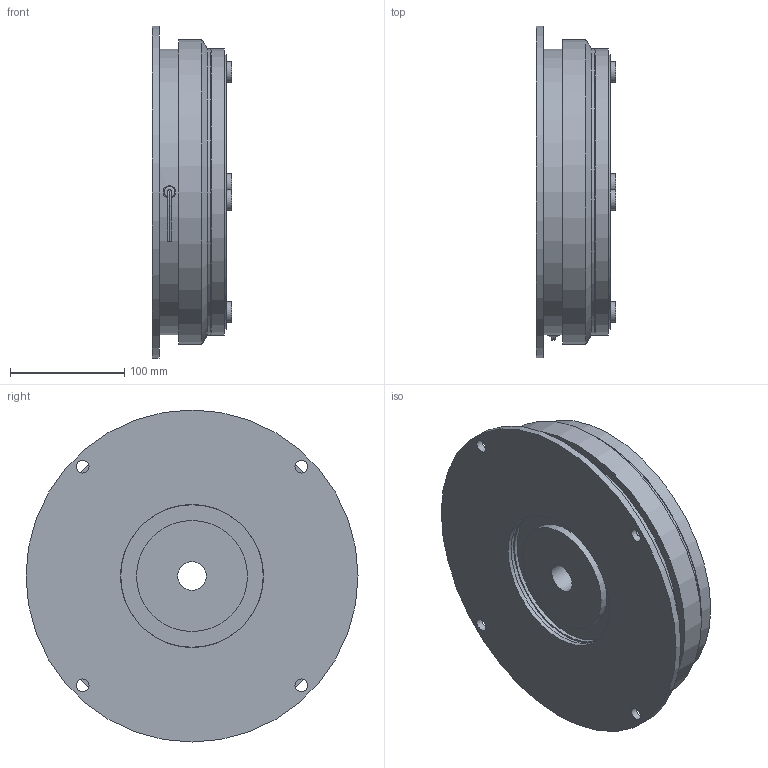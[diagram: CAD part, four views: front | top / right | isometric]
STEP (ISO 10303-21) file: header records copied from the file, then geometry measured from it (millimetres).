
FILE_DESCRIPTION(/* description */ (''),/* implementation_level */ '2;1');
FILE_NAME(/* name */ 'X:\INVENTOR\DISEGNI\08_Freni_Friz_Elettmag_Monodisco\08_20 ESAL\08_20_250_01 ESAL250\08_20_250_01 ESAL250@STEP.stp',/* time_stamp */ '2017-09-20T16:24:44+02:00',/* author */ ('stefano'),/* organization */ (''),/* preprocessor_version */ 'ST-DEVELOPER v16.1',/* originating_system */ 'Autodesk Inventor 2016',/* authorisation */ '');
FILE_SCHEMA (('CONFIG_CONTROL_DESIGN'));
Length unit declared in the file: millimetre
Products named in the file (1): 08_20_250_01 ESAL250_Substitute_1
Bounding box: 69.4 x 290 x 290 mm (x, y, z)
Volume: 2356306.7 mm3; surface area: 442974.7 mm2
Topology: 4 solids, 4 shells, 186 faces, 390 edges, 242 vertices
Faces by surface type: cylinder 74, cone 57, plane 48, torus 4, bspline 3
Full cylindrical faces by diameter (mm): 4 x1, 6 x4, 9 x1, 11 x5, 12.2 x4, 18 x4, 25 x1, 28 x4, 97 x1, 110 x1, 124.5 x1, 125 x4, 127.4 x1, 152 x2, 180 x1, 234 x2, 240 x1, 249.8 x1, 250 x2, 250.5 x1, 266 x1, 290 x1
Entity records: 5230 total; most frequent: CARTESIAN_POINT 1127, DIRECTION 899, ORIENTED_EDGE 636, AXIS2_PLACEMENT_3D 411, EDGE_CURVE 313, EDGE_LOOP 307, CIRCLE 227, VERTEX_POINT 222
